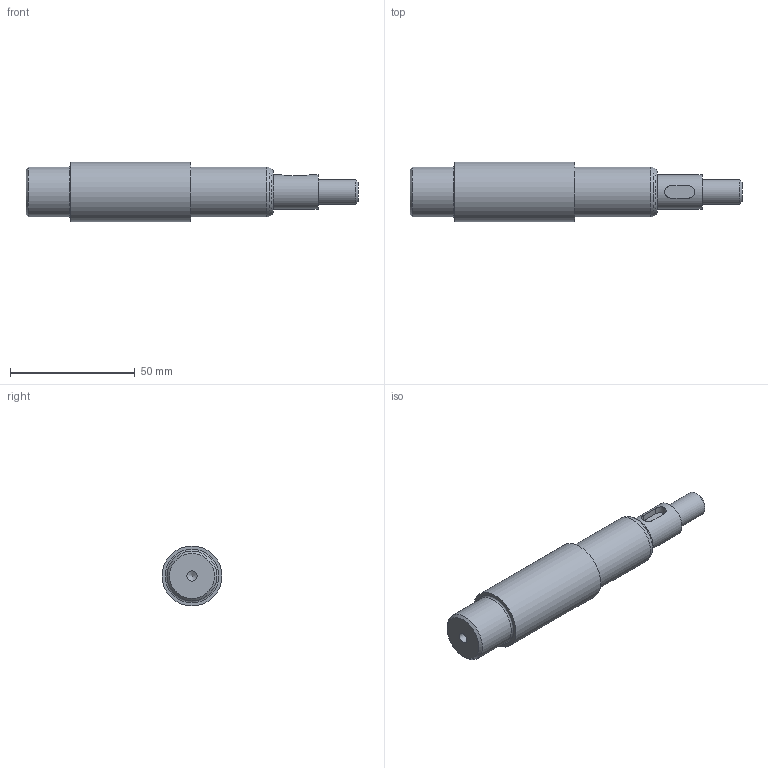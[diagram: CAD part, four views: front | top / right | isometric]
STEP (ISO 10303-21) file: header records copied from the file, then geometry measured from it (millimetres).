
FILE_DESCRIPTION(/* description */ (''),/* implementation_level */ '2;1');
FILE_NAME(/* name */ 'C:\Users\now\Desktop\391003E1011\축.stp',/* time_stamp */ '2019-10-26T11:17:25+09:00',/* author */ ('now'),/* organization */ (''),/* preprocessor_version */ 'ST-DEVELOPER v15.6',/* originating_system */ 'Autodesk Inventor 2015',/* authorisation */ '');
FILE_SCHEMA (('AUTOMOTIVE_DESIGN { 1 0 10303 214 3 1 1 }'));
Length unit declared in the file: millimetre
Products named in the file (1): 축
Bounding box: 133 x 24 x 24 mm (x, y, z)
Volume: 41327.4 mm3; surface area: 9116.4 mm2
Topology: 1 solids, 1 shells, 24 faces, 47 edges, 30 vertices
Faces by surface type: plane 9, cylinder 8, cone 4, torus 3
Full cylindrical faces by diameter (mm): 4.134 x1, 10 x1, 14 x1, 20 x2, 24 x1
Entity records: 588 total; most frequent: CARTESIAN_POINT 121, DIRECTION 98, ORIENTED_EDGE 64, AXIS2_PLACEMENT_3D 45, EDGE_LOOP 42, EDGE_CURVE 32, VERTEX_POINT 28, FACE_OUTER_BOUND 24
